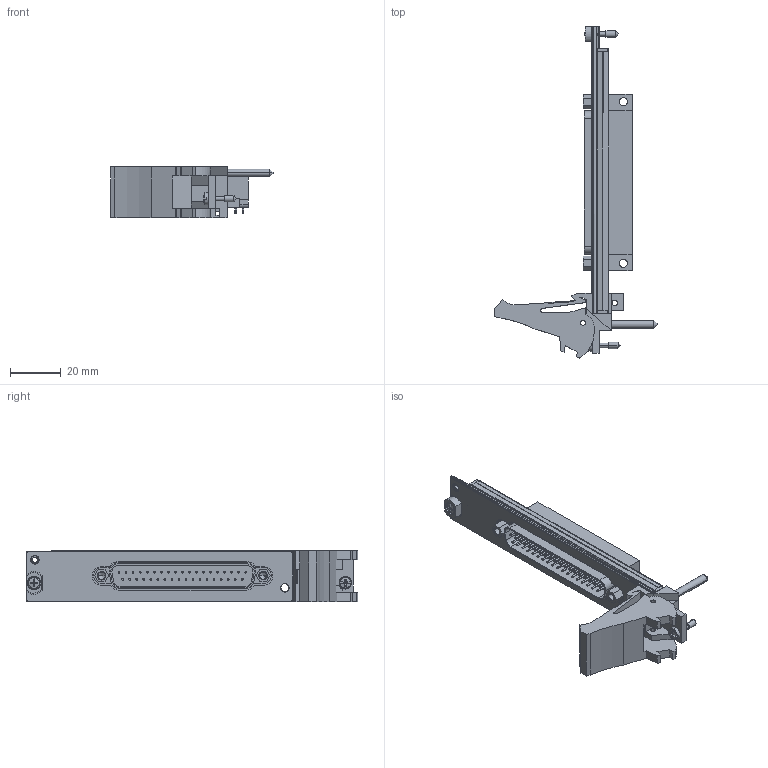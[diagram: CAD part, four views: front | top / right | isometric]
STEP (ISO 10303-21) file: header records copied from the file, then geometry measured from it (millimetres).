
FILE_DESCRIPTION((''),'2;1');
FILE_NAME('CU_PXI-2564','2009-09-08T',('jjorden'),(''),'PRO/ENGINEER BY PARAMETRIC TECHNOLOGY CORPORATION, 2006080','PRO/ENGINEER BY PARAMETRIC TECHNOLOGY CORPORATION, 2006080','');
FILE_SCHEMA(('CONFIG_CONTROL_DESIGN'));
Length unit declared in the file: inch
Products named in the file (1): CU_PXI-2564
Bounding box: 63.73 x 130.49 x 20.42 mm (x, y, z)
Volume: 24826.5 mm3; surface area: 20656.5 mm2
Topology: 2 solids, 2 shells, 648 faces, 1591 edges, 1040 vertices
Faces by surface type: plane 337, cylinder 279, cone 24, torus 4, sphere 4
Entity records: 19567 total; most frequent: CARTESIAN_POINT 3617, DIRECTION 3467, ORIENTED_EDGE 3166, EDGE_CURVE 1583, AXIS2_PLACEMENT_3D 1264, VERTEX_POINT 1040, VECTOR 939, LINE 939
